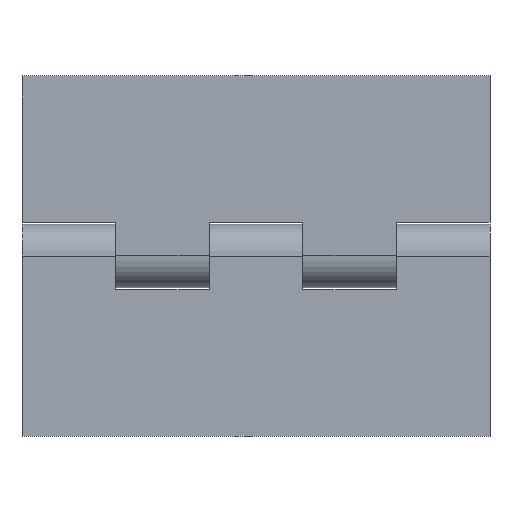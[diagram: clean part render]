
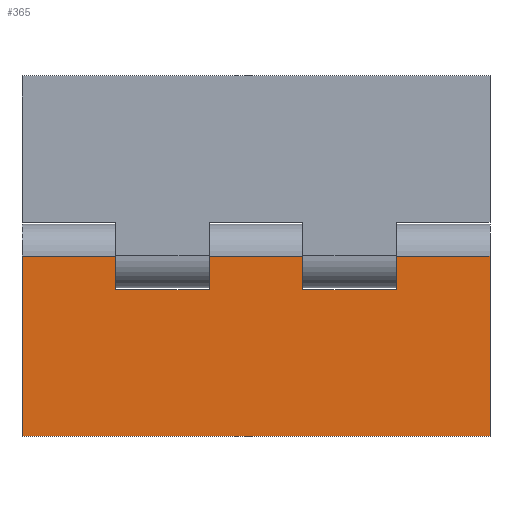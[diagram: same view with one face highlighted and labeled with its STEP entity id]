
A CAD part, front view. The second image highlights one B-rep face of the part: STEP entity #365.
In plain terms, the highlighted planar face has unit normal (0, -1, 0).
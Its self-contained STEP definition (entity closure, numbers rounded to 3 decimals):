
#10 = EDGE_CURVE ( 'NONE', #716, #14, #1890, .T. ) ;
#14 = VERTEX_POINT ( 'NONE', #1529 ) ;
#45 = CARTESIAN_POINT ( 'NONE',  ( 32.5, 0., 0. ) ) ;
#52 = CARTESIAN_POINT ( 'NONE',  ( -19.5, 0., -4.7 ) ) ;
#74 = DIRECTION ( 'NONE',  ( -1., 0., 0. ) ) ;
#76 = LINE ( 'NONE', #1354, #623 ) ;
#94 = VERTEX_POINT ( 'NONE', #974 ) ;
#113 = CARTESIAN_POINT ( 'NONE',  ( 32.5, 0., -25. ) ) ;
#114 = LINE ( 'NONE', #1164, #1261 ) ;
#193 = VERTEX_POINT ( 'NONE', #2087 ) ;
#203 = LINE ( 'NONE', #52, #1864 ) ;
#248 = CARTESIAN_POINT ( 'NONE',  ( 19.5, 0., 0. ) ) ;
#269 = LINE ( 'NONE', #113, #1180 ) ;
#281 = ORIENTED_EDGE ( 'NONE', *, *, #295, .T. ) ;
#295 = EDGE_CURVE ( 'NONE', #2229, #716, #380, .T. ) ;
#337 = VERTEX_POINT ( 'NONE', #45 ) ;
#365 = ADVANCED_FACE ( 'NONE', ( #912 ), #735, .F. ) ;
#376 = DIRECTION ( 'NONE',  ( -1., 0., 0. ) ) ;
#380 = LINE ( 'NONE', #2141, #1192 ) ;
#384 = VERTEX_POINT ( 'NONE', #1463 ) ;
#395 = ORIENTED_EDGE ( 'NONE', *, *, #1777, .F. ) ;
#427 = VECTOR ( 'NONE', #1984, 1000. ) ;
#428 = EDGE_CURVE ( 'NONE', #384, #2229, #593, .T. ) ;
#447 = DIRECTION ( 'NONE',  ( 0., 0., -1. ) ) ;
#477 = LINE ( 'NONE', #492, #1860 ) ;
#492 = CARTESIAN_POINT ( 'NONE',  ( 32.5, 0., 0. ) ) ;
#580 = LINE ( 'NONE', #1130, #1975 ) ;
#584 = CARTESIAN_POINT ( 'NONE',  ( 32.5, 0., 0. ) ) ;
#593 = LINE ( 'NONE', #901, #427 ) ;
#623 = VECTOR ( 'NONE', #1829, 1000. ) ;
#677 = CARTESIAN_POINT ( 'NONE',  ( -32.5, 0., -25. ) ) ;
#716 = VERTEX_POINT ( 'NONE', #1562 ) ;
#735 = PLANE ( 'NONE',  #1772 ) ;
#764 = DIRECTION ( 'NONE',  ( -1., 0., 0. ) ) ;
#772 = VERTEX_POINT ( 'NONE', #677 ) ;
#777 = DIRECTION ( 'NONE',  ( 0., 0., -1. ) ) ;
#802 = ORIENTED_EDGE ( 'NONE', *, *, #2006, .T. ) ;
#822 = DIRECTION ( 'NONE',  ( -1., 0., 0. ) ) ;
#857 = VERTEX_POINT ( 'NONE', #1635 ) ;
#899 = EDGE_LOOP ( 'NONE', ( #1504, #281, #1649, #2113, #1735, #1588, #802, #395, #1278, #1585, #2100, #1553 ) ) ;
#901 = CARTESIAN_POINT ( 'NONE',  ( 6.5, 0., -4.7 ) ) ;
#912 = FACE_OUTER_BOUND ( 'NONE', #899, .T. ) ;
#925 = DIRECTION ( 'NONE',  ( 0., 0., 1. ) ) ;
#933 = CARTESIAN_POINT ( 'NONE',  ( -32.5, 0., 0. ) ) ;
#944 = CARTESIAN_POINT ( 'NONE',  ( -19.5, 0., -4.7 ) ) ;
#956 = EDGE_CURVE ( 'NONE', #1686, #857, #76, .T. ) ;
#958 = LINE ( 'NONE', #1999, #2081 ) ;
#974 = CARTESIAN_POINT ( 'NONE',  ( 32.5, 0., -25. ) ) ;
#1130 = CARTESIAN_POINT ( 'NONE',  ( 6.5, 0., -4.7 ) ) ;
#1131 = LINE ( 'NONE', #1828, #1643 ) ;
#1140 = LINE ( 'NONE', #944, #1336 ) ;
#1159 = CARTESIAN_POINT ( 'NONE',  ( -6.5, 0., -4.7 ) ) ;
#1164 = CARTESIAN_POINT ( 'NONE',  ( 32.5, 0., 0. ) ) ;
#1180 = VECTOR ( 'NONE', #74, 1000. ) ;
#1189 = EDGE_CURVE ( 'NONE', #337, #94, #477, .T. ) ;
#1192 = VECTOR ( 'NONE', #1602, 1000. ) ;
#1261 = VECTOR ( 'NONE', #822, 1000. ) ;
#1278 = ORIENTED_EDGE ( 'NONE', *, *, #1189, .F. ) ;
#1301 = DIRECTION ( 'NONE',  ( 0., 1., 0. ) ) ;
#1336 = VECTOR ( 'NONE', #1790, 1000. ) ;
#1354 = CARTESIAN_POINT ( 'NONE',  ( 19.5, 0., -4.7 ) ) ;
#1370 = VECTOR ( 'NONE', #447, 1000. ) ;
#1463 = CARTESIAN_POINT ( 'NONE',  ( 6.5, 0., -4.7 ) ) ;
#1504 = ORIENTED_EDGE ( 'NONE', *, *, #428, .T. ) ;
#1529 = CARTESIAN_POINT ( 'NONE',  ( -6.5, 0., -4.7 ) ) ;
#1548 = EDGE_CURVE ( 'NONE', #1810, #2003, #958, .T. ) ;
#1553 = ORIENTED_EDGE ( 'NONE', *, *, #1615, .T. ) ;
#1562 = CARTESIAN_POINT ( 'NONE',  ( -6.5, 0., 0. ) ) ;
#1568 = CARTESIAN_POINT ( 'NONE',  ( 6.5, 0., 0. ) ) ;
#1585 = ORIENTED_EDGE ( 'NONE', *, *, #2159, .T. ) ;
#1588 = ORIENTED_EDGE ( 'NONE', *, *, #1548, .T. ) ;
#1600 = EDGE_CURVE ( 'NONE', #193, #1810, #203, .T. ) ;
#1602 = DIRECTION ( 'NONE',  ( -1., 0., 0. ) ) ;
#1608 = DIRECTION ( 'NONE',  ( 0., 0., 1. ) ) ;
#1615 = EDGE_CURVE ( 'NONE', #857, #384, #580, .T. ) ;
#1635 = CARTESIAN_POINT ( 'NONE',  ( 19.5, 0., -4.7 ) ) ;
#1643 = VECTOR ( 'NONE', #777, 1000. ) ;
#1649 = ORIENTED_EDGE ( 'NONE', *, *, #10, .T. ) ;
#1686 = VERTEX_POINT ( 'NONE', #248 ) ;
#1728 = DIRECTION ( 'NONE',  ( 0., 0., -1. ) ) ;
#1735 = ORIENTED_EDGE ( 'NONE', *, *, #1600, .T. ) ;
#1772 = AXIS2_PLACEMENT_3D ( 'NONE', #584, #1301, #925 ) ;
#1777 = EDGE_CURVE ( 'NONE', #94, #772, #269, .T. ) ;
#1790 = DIRECTION ( 'NONE',  ( -1., 0., 0. ) ) ;
#1810 = VERTEX_POINT ( 'NONE', #1874 ) ;
#1828 = CARTESIAN_POINT ( 'NONE',  ( -32.5, 0., 0. ) ) ;
#1829 = DIRECTION ( 'NONE',  ( 0., 0., -1. ) ) ;
#1860 = VECTOR ( 'NONE', #1728, 1000. ) ;
#1864 = VECTOR ( 'NONE', #1608, 1000. ) ;
#1874 = CARTESIAN_POINT ( 'NONE',  ( -19.5, 0., 0. ) ) ;
#1890 = LINE ( 'NONE', #1159, #1370 ) ;
#1908 = EDGE_CURVE ( 'NONE', #14, #193, #1140, .T. ) ;
#1975 = VECTOR ( 'NONE', #764, 1000. ) ;
#1984 = DIRECTION ( 'NONE',  ( 0., 0., 1. ) ) ;
#1999 = CARTESIAN_POINT ( 'NONE',  ( 32.5, 0., 0. ) ) ;
#2003 = VERTEX_POINT ( 'NONE', #933 ) ;
#2006 = EDGE_CURVE ( 'NONE', #2003, #772, #1131, .T. ) ;
#2081 = VECTOR ( 'NONE', #376, 1000. ) ;
#2087 = CARTESIAN_POINT ( 'NONE',  ( -19.5, 0., -4.7 ) ) ;
#2100 = ORIENTED_EDGE ( 'NONE', *, *, #956, .T. ) ;
#2113 = ORIENTED_EDGE ( 'NONE', *, *, #1908, .T. ) ;
#2141 = CARTESIAN_POINT ( 'NONE',  ( 32.5, 0., 0. ) ) ;
#2159 = EDGE_CURVE ( 'NONE', #337, #1686, #114, .T. ) ;
#2229 = VERTEX_POINT ( 'NONE', #1568 ) ;
